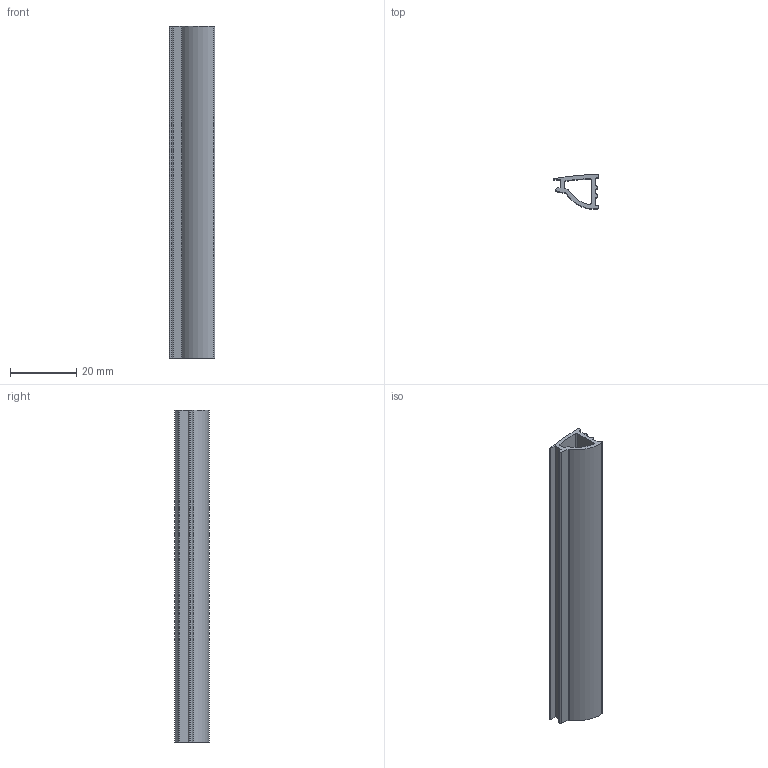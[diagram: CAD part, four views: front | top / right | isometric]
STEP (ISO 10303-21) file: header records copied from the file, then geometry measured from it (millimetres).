
FILE_DESCRIPTION (( 'STEP AP203' ), '1' );
FILE_NAME ('013.512.002.STEP', '2021-03-22T07:22:57', ( '' ), ( '' ), 'SwSTEP 2.0', 'SolidWorks 2018', '' );
FILE_SCHEMA (( 'CONFIG_CONTROL_DESIGN' ));
Length unit declared in the file: millimetre
Products named in the file (1): 013.512.002
Bounding box: 13.64 x 10.31 x 100 mm (x, y, z)
Volume: 4516 mm3; surface area: 7585 mm2
Topology: 1 solids, 1 shells, 33 faces, 93 edges, 62 vertices
Faces by surface type: cylinder 20, plane 13
Entity records: 1168 total; most frequent: DIRECTION 201, CARTESIAN_POINT 189, ORIENTED_EDGE 186, EDGE_CURVE 93, AXIS2_PLACEMENT_3D 74, VERTEX_POINT 62, VECTOR 53, LINE 53
